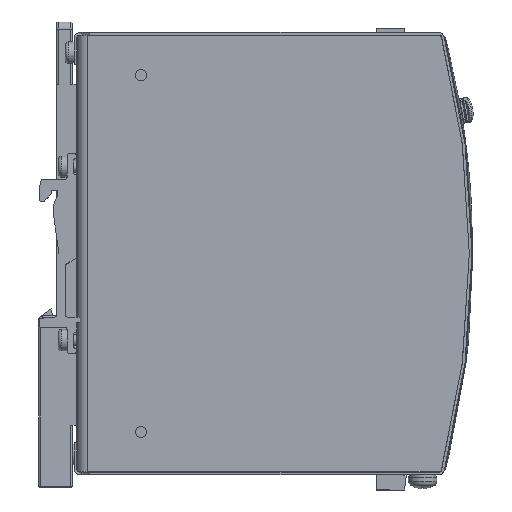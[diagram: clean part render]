
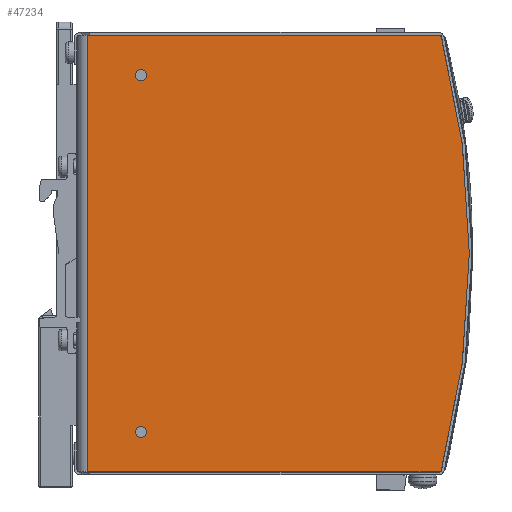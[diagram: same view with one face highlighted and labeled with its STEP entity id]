
A CAD part, front view. The second image highlights one B-rep face of the part: STEP entity #47234.
In plain terms, the highlighted planar face has unit normal (0, -1, 0).
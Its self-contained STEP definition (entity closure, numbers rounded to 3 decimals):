
#879=FACE_BOUND('',#6323,.T.);
#880=FACE_BOUND('',#6324,.T.);
#1911=PLANE('',#50096);
#3890=FACE_OUTER_BOUND('',#6322,.T.);
#6322=EDGE_LOOP('',(#33208,#33209,#33210,#33211));
#6323=EDGE_LOOP('',(#33212));
#6324=EDGE_LOOP('',(#33213));
#9458=LINE('',#65149,#15171);
#9465=LINE('',#65173,#15178);
#9467=LINE('',#65178,#15180);
#15171=VECTOR('',#53239,10.);
#15178=VECTOR('',#53266,10.);
#15180=VECTOR('',#53272,10.);
#20856=CIRCLE('',#50059,1.6);
#20858=CIRCLE('',#50062,1.6);
#20864=CIRCLE('',#50075,240.);
#21578=VERTEX_POINT('',#65063);
#21580=VERTEX_POINT('',#65069);
#21594=VERTEX_POINT('',#65111);
#21595=VERTEX_POINT('',#65112);
#21609=VERTEX_POINT('',#65148);
#21616=VERTEX_POINT('',#65172);
#26188=EDGE_CURVE('',#21578,#21578,#20856,.T.);
#26191=EDGE_CURVE('',#21580,#21580,#20858,.T.);
#26212=EDGE_CURVE('',#21594,#21595,#20864,.T.);
#26230=EDGE_CURVE('',#21594,#21609,#9458,.T.);
#26242=EDGE_CURVE('',#21616,#21609,#9465,.T.);
#26245=EDGE_CURVE('',#21595,#21616,#9467,.T.);
#33208=ORIENTED_EDGE('',*,*,#26212,.T.);
#33209=ORIENTED_EDGE('',*,*,#26245,.T.);
#33210=ORIENTED_EDGE('',*,*,#26242,.T.);
#33211=ORIENTED_EDGE('',*,*,#26230,.F.);
#33212=ORIENTED_EDGE('',*,*,#26188,.T.);
#33213=ORIENTED_EDGE('',*,*,#26191,.T.);
#47234=ADVANCED_FACE('',(#3890,#879,#880),#1911,.T.);
#50059=AXIS2_PLACEMENT_3D('',#65064,#53159,#53160);
#50062=AXIS2_PLACEMENT_3D('',#65070,#53166,#53167);
#50075=AXIS2_PLACEMENT_3D('',#65113,#53207,#53208);
#50096=AXIS2_PLACEMENT_3D('',#65177,#53270,#53271);
#53159=DIRECTION('center_axis',(0.,1.,0.));
#53160=DIRECTION('ref_axis',(-1.,0.,0.));
#53166=DIRECTION('center_axis',(0.,1.,0.));
#53167=DIRECTION('ref_axis',(-1.,0.,0.));
#53207=DIRECTION('center_axis',(0.,-1.,0.));
#53208=DIRECTION('ref_axis',(-0.967,0.,-0.255));
#53239=DIRECTION('',(-1.,0.,0.));
#53266=DIRECTION('',(0.,0.,-1.));
#53270=DIRECTION('center_axis',(0.,-1.,0.));
#53271=DIRECTION('ref_axis',(0.,0.,-1.));
#53272=DIRECTION('',(-1.,0.,0.));
#65063=CARTESIAN_POINT('',(19.6,-19.5,50.));
#65064=CARTESIAN_POINT('Origin',(18.,-19.5,50.));
#65069=CARTESIAN_POINT('',(19.6,-19.5,-50.));
#65070=CARTESIAN_POINT('Origin',(18.,-19.5,-50.));
#65111=CARTESIAN_POINT('',(102.079,-19.5,-61.15));
#65112=CARTESIAN_POINT('',(102.079,-19.5,61.15));
#65113=CARTESIAN_POINT('Origin',(-130.,-19.5,0.));
#65148=CARTESIAN_POINT('',(3.,-19.5,-61.15));
#65149=CARTESIAN_POINT('',(130.,-19.5,-61.15));
#65172=CARTESIAN_POINT('',(3.,-19.5,61.15));
#65173=CARTESIAN_POINT('',(3.,-19.5,-61.15));
#65177=CARTESIAN_POINT('Origin',(130.,-19.5,-61.15));
#65178=CARTESIAN_POINT('',(130.,-19.5,61.15));
